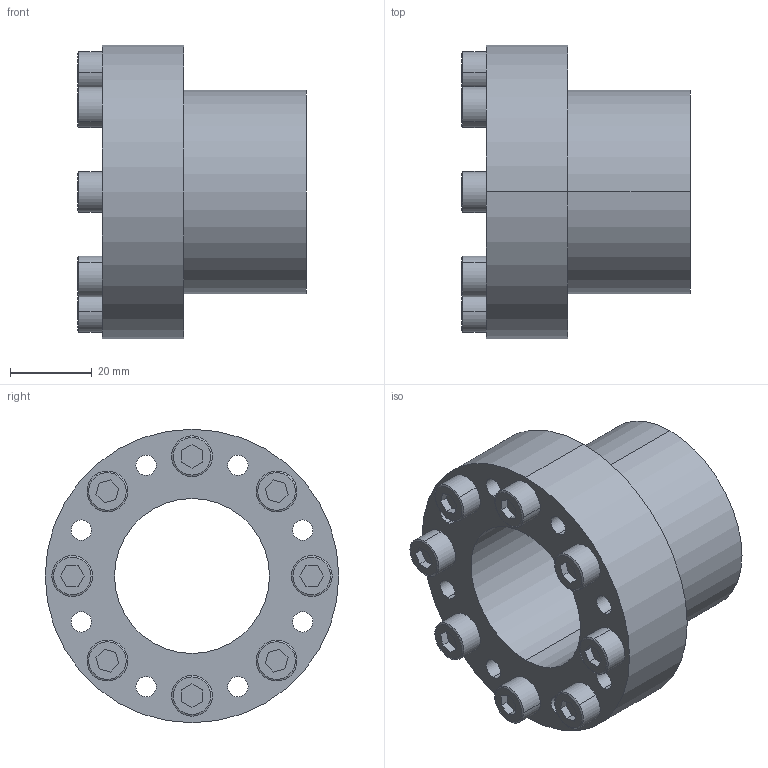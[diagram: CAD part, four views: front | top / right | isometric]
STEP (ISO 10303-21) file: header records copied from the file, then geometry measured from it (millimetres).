
FILE_DESCRIPTION (( 'STEP AP203' ), '1' );
FILE_NAME ('SB-38.STEP', '2009-09-29T15:49:18', ( 'USER' ), ( 'HOME' ), 'SwSTEP 2.0', 'SolidWorks 2007', '' );
FILE_SCHEMA (( 'CONFIG_CONTROL_DESIGN' ));
Length unit declared in the file: millimetre
Products named in the file (1): SB-38
Bounding box: 56 x 72 x 72 mm (x, y, z)
Volume: 84605 mm3; surface area: 31044.7 mm2
Topology: 9 solids, 9 shells, 169 faces, 386 edges, 252 vertices
Faces by surface type: plane 83, cylinder 70, cone 16
Entity records: 4917 total; most frequent: DIRECTION 882, CARTESIAN_POINT 808, ORIENTED_EDGE 772, EDGE_CURVE 386, AXIS2_PLACEMENT_3D 326, VERTEX_POINT 252, VECTOR 230, LINE 230
